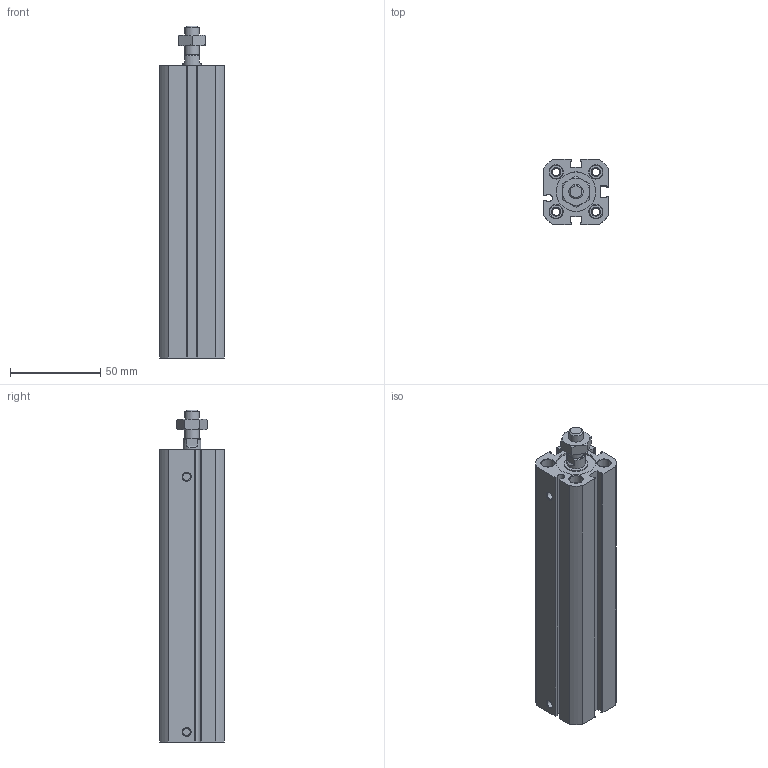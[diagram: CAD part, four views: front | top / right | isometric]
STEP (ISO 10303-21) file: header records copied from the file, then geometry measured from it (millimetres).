
FILE_DESCRIPTION( ( 'STEP AP214' ), '1' );
FILE_NAME( 'C:/Users/EMC02301/Desktop/RU0638 SF外牙 图纸/SF20X125-S-M.stp', '2026-07-24T09:22:12', ( 'License CC BY-ND 4.0' ), ( 'CADENAS' ), ' ', 'PARTsolutions', ' ' );
FILE_SCHEMA( ( 'AUTOMOTIVE_DESIGN { 1 0 10303 214 1 1 1 1 }' ) );
Length unit declared in the file: millimetre
Products named in the file (3): SF20X125-S-M()(00); _SF20X125()(_body) ; _SF20X125-M(rod-0)
Assembly tree (2 placements, depth 2):
  SF20X125-S-M()(00)
    _SF20X125()(_body) 
    _SF20X125-M(rod-0)
Bounding box: 36 x 36 x 184 mm (x, y, z)
Volume: 148682.9 mm3; surface area: 55486 mm2
Topology: 2 solids, 2 shells, 154 faces, 362 edges, 230 vertices
Faces by surface type: plane 65, cylinder 54, cone 35
Full cylindrical faces by diameter (mm): 4.134 x6, 7.3 x8, 8 x2, 10 x2, 13 x1, 20 x3, 22 x1
Entity records: 5568 total; most frequent: CARTESIAN_POINT 847, DIRECTION 748, ORIENTED_EDGE 630, EDGE_CURVE 315, AXIS2_PLACEMENT_3D 304, VERTEX_POINT 227, EDGE_LOOP 224, FACE_OUTER_BOUND 177
